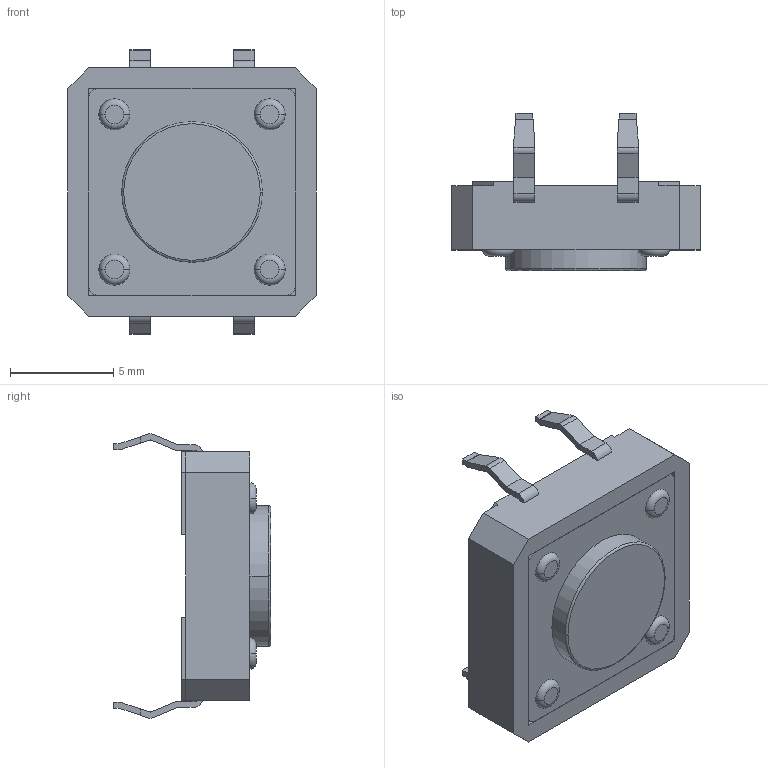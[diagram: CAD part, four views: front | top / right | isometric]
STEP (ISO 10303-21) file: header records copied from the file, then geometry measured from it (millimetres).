
FILE_DESCRIPTION((''),'2;1');
FILE_NAME('JQB1212-C0431-01G-101_ASM','2026-05-25T18:17:13',('Admin'),(''),'CREO PARAMETRIC BY PTC INC, 2019224','CREO PARAMETRIC BY PTC INC, 2019224','');
FILE_SCHEMA(('AUTOMOTIVE_DESIGN { 1 0 10303 214 1 1 1 1 }'));
Length unit declared in the file: millimetre
Products named in the file (3): JQB1212-C0431-01G-101_01; JQB1212-C0431-01G-101_02; JQB1212-C0431-01G-101_ASM
Assembly tree (2 placements, depth 2):
  JQB1212-C0431-01G-101_ASM
    JQB1212-C0431-01G-101_01
    JQB1212-C0431-01G-101_02
Bounding box: 12 x 7.6 x 13.75 mm (x, y, z)
Volume: 489.4 mm3; surface area: 788.5 mm2
Topology: 3 solids, 3 shells, 161 faces, 434 edges, 302 vertices
Faces by surface type: plane 107, cylinder 44, torus 10
Entity records: 7314 total; most frequent: CARTESIAN_POINT 927, DIRECTION 862, ORIENTED_EDGE 848, PRESENTATION_STYLE_ASSIGNMENT 461, EDGE_CURVE 424, STYLED_ITEM 385, CURVE_STYLE 383, VECTOR 318
